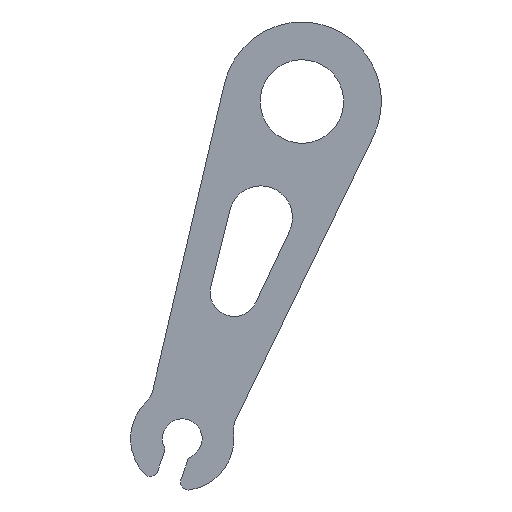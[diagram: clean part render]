
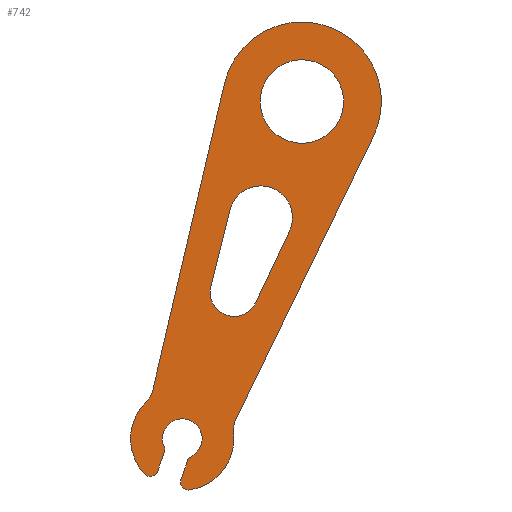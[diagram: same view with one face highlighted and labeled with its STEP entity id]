
A CAD part, front view. The second image highlights one B-rep face of the part: STEP entity #742.
In plain terms, the highlighted planar face has unit normal (0, -1, 0).
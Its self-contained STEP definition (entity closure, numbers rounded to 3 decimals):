
#241=CARTESIAN_POINT('Axis2P3D Location',(1400.697,-948.,459.959)) ;
#245=CARTESIAN_POINT('Vertex',(1397.998,-948.,461.27)) ;
#247=CARTESIAN_POINT('Vertex',(1397.717,-948.,459.608)) ;
#276=CARTESIAN_POINT('Vertex',(1392.177,-948.,452.411)) ;
#279=CARTESIAN_POINT('Axis2P3D Location',(1391.262,-948.,458.847)) ;
#300=CARTESIAN_POINT('Vertex',(1415.303,-948.,496.887)) ;
#303=CARTESIAN_POINT('Line Origine',(1406.651,-948.,479.078)) ;
#320=CARTESIAN_POINT('Axis2P3D Location',(1384.638,-948.,465.656)) ;
#324=CARTESIAN_POINT('Vertex',(1387.559,-948.,464.974)) ;
#326=CARTESIAN_POINT('Vertex',(1386.73,-948.,463.506)) ;
#355=CARTESIAN_POINT('Vertex',(1386.496,-948.,454.427)) ;
#358=CARTESIAN_POINT('Axis2P3D Location',(1391.262,-948.,458.847)) ;
#375=CARTESIAN_POINT('Line Origine',(1392.065,-948.,484.253)) ;
#379=CARTESIAN_POINT('Vertex',(1396.571,-948.,503.533)) ;
#403=CARTESIAN_POINT('Vertex',(1388.172,-948.,454.772)) ;
#406=CARTESIAN_POINT('Axis2P3D Location',(1387.229,-948.,455.107)) ;
#427=CARTESIAN_POINT('Vertex',(1389.,-948.,457.106)) ;
#430=CARTESIAN_POINT('Line Origine',(1388.586,-948.,455.939)) ;
#451=CARTESIAN_POINT('Vertex',(1391.093,-948.,453.736)) ;
#454=CARTESIAN_POINT('Axis2P3D Location',(1392.036,-948.,453.401)) ;
#471=CARTESIAN_POINT('Line Origine',(1391.507,-948.,454.902)) ;
#475=CARTESIAN_POINT('Vertex',(1391.921,-948.,456.069)) ;
#499=CARTESIAN_POINT('Vertex',(1388.973,-948.,457.842)) ;
#502=CARTESIAN_POINT('Axis2P3D Location',(1388.057,-948.,457.44)) ;
#519=CARTESIAN_POINT('Axis2P3D Location',(1391.262,-948.,458.847)) ;
#523=CARTESIAN_POINT('Vertex',(1392.406,-948.,456.624)) ;
#543=CARTESIAN_POINT('Axis2P3D Location',(1392.864,-948.,455.735)) ;
#560=CARTESIAN_POINT('Axis2P3D Location',(1397.782,-948.,477.224)) ;
#564=CARTESIAN_POINT('Vertex',(1394.869,-948.,477.94)) ;
#566=CARTESIAN_POINT('Vertex',(1400.495,-948.,475.944)) ;
#591=CARTESIAN_POINT('Line Origine',(1402.619,-948.,480.442)) ;
#595=CARTESIAN_POINT('Vertex',(1404.743,-948.,484.941)) ;
#615=CARTESIAN_POINT('Axis2P3D Location',(1401.126,-948.,486.649)) ;
#619=CARTESIAN_POINT('Vertex',(1397.241,-948.,487.603)) ;
#639=CARTESIAN_POINT('Line Origine',(1396.055,-948.,482.771)) ;
#656=CARTESIAN_POINT('Axis2P3D Location',(1406.309,-948.,501.257)) ;
#660=CARTESIAN_POINT('Vertex',(1401.093,-948.,501.854)) ;
#662=CARTESIAN_POINT('Vertex',(1411.524,-948.,500.659)) ;
#682=CARTESIAN_POINT('Axis2P3D Location',(1406.309,-948.,501.257)) ;
#699=CARTESIAN_POINT('Axis2P3D Location',(1406.309,-948.,501.257)) ;
#711=CARTESIAN_POINT('Axis2P3D Location',(1404.943,-948.,489.335)) ;
#242=DIRECTION('Axis2P3D Direction',(0.,1.,0.)) ;
#280=DIRECTION('Axis2P3D Direction',(0.,-1.,0.)) ;
#304=DIRECTION('Vector Direction',(-0.437,0.,-0.899)) ;
#321=DIRECTION('Axis2P3D Direction',(0.,-1.,0.)) ;
#359=DIRECTION('Axis2P3D Direction',(0.,-1.,0.)) ;
#376=DIRECTION('Vector Direction',(-0.228,0.,-0.974)) ;
#407=DIRECTION('Axis2P3D Direction',(0.,-1.,0.)) ;
#431=DIRECTION('Vector Direction',(-0.334,0.,-0.942)) ;
#455=DIRECTION('Axis2P3D Direction',(0.,1.,0.)) ;
#472=DIRECTION('Vector Direction',(-0.334,0.,-0.942)) ;
#503=DIRECTION('Axis2P3D Direction',(0.,1.,0.)) ;
#520=DIRECTION('Axis2P3D Direction',(0.,-1.,0.)) ;
#544=DIRECTION('Axis2P3D Direction',(0.,-1.,0.)) ;
#561=DIRECTION('Axis2P3D Direction',(0.,-1.,0.)) ;
#592=DIRECTION('Vector Direction',(-0.427,0.,-0.904)) ;
#616=DIRECTION('Axis2P3D Direction',(0.,-1.,0.)) ;
#640=DIRECTION('Vector Direction',(-0.238,0.,-0.971)) ;
#657=DIRECTION('Axis2P3D Direction',(0.,-1.,0.)) ;
#683=DIRECTION('Axis2P3D Direction',(0.,-1.,0.)) ;
#700=DIRECTION('Axis2P3D Direction',(0.,-1.,0.)) ;
#712=DIRECTION('Axis2P3D Direction',(0.,-1.,0.)) ;
#713=DIRECTION('Axis2P3D XDirection',(0.994,0.,-0.114)) ;
#243=AXIS2_PLACEMENT_3D('Circle Axis2P3D',#241,#242,$) ;
#281=AXIS2_PLACEMENT_3D('Circle Axis2P3D',#279,#280,$) ;
#322=AXIS2_PLACEMENT_3D('Circle Axis2P3D',#320,#321,$) ;
#360=AXIS2_PLACEMENT_3D('Circle Axis2P3D',#358,#359,$) ;
#408=AXIS2_PLACEMENT_3D('Circle Axis2P3D',#406,#407,$) ;
#456=AXIS2_PLACEMENT_3D('Circle Axis2P3D',#454,#455,$) ;
#504=AXIS2_PLACEMENT_3D('Circle Axis2P3D',#502,#503,$) ;
#521=AXIS2_PLACEMENT_3D('Circle Axis2P3D',#519,#520,$) ;
#545=AXIS2_PLACEMENT_3D('Circle Axis2P3D',#543,#544,$) ;
#562=AXIS2_PLACEMENT_3D('Circle Axis2P3D',#560,#561,$) ;
#617=AXIS2_PLACEMENT_3D('Circle Axis2P3D',#615,#616,$) ;
#658=AXIS2_PLACEMENT_3D('Circle Axis2P3D',#656,#657,$) ;
#684=AXIS2_PLACEMENT_3D('Circle Axis2P3D',#682,#683,$) ;
#701=AXIS2_PLACEMENT_3D('Circle Axis2P3D',#699,#700,$) ;
#714=AXIS2_PLACEMENT_3D('Plane Axis2P3D',#711,#712,#713) ;
#717=ORIENTED_EDGE('',*,*,#547,.T.) ;
#718=ORIENTED_EDGE('',*,*,#477,.T.) ;
#719=ORIENTED_EDGE('',*,*,#458,.T.) ;
#720=ORIENTED_EDGE('',*,*,#283,.T.) ;
#721=ORIENTED_EDGE('',*,*,#249,.F.) ;
#722=ORIENTED_EDGE('',*,*,#307,.F.) ;
#723=ORIENTED_EDGE('',*,*,#703,.T.) ;
#724=ORIENTED_EDGE('',*,*,#381,.T.) ;
#725=ORIENTED_EDGE('',*,*,#328,.T.) ;
#726=ORIENTED_EDGE('',*,*,#362,.F.) ;
#727=ORIENTED_EDGE('',*,*,#410,.F.) ;
#728=ORIENTED_EDGE('',*,*,#434,.F.) ;
#729=ORIENTED_EDGE('',*,*,#506,.F.) ;
#730=ORIENTED_EDGE('',*,*,#525,.F.) ;
#733=ORIENTED_EDGE('',*,*,#664,.T.) ;
#734=ORIENTED_EDGE('',*,*,#686,.T.) ;
#737=ORIENTED_EDGE('',*,*,#597,.T.) ;
#738=ORIENTED_EDGE('',*,*,#568,.F.) ;
#739=ORIENTED_EDGE('',*,*,#643,.F.) ;
#740=ORIENTED_EDGE('',*,*,#621,.T.) ;
#735=FACE_BOUND('',#732,.T.) ;
#741=FACE_BOUND('',#736,.T.) ;
#305=VECTOR('Line Direction',#304,1.) ;
#377=VECTOR('Line Direction',#376,1.) ;
#432=VECTOR('Line Direction',#431,1.) ;
#473=VECTOR('Line Direction',#472,1.) ;
#593=VECTOR('Line Direction',#592,1.) ;
#641=VECTOR('Line Direction',#640,1.) ;
#742=ADVANCED_FACE('\X2\51E04F554F53\X0\.4',(#731,#735,#741),#715,.T.) ;
#244=CIRCLE('generated circle',#243,3.) ;
#282=CIRCLE('generated circle',#281,6.5) ;
#323=CIRCLE('generated circle',#322,3.) ;
#361=CIRCLE('generated circle',#360,6.5) ;
#409=CIRCLE('generated circle',#408,1.) ;
#457=CIRCLE('generated circle',#456,1.) ;
#505=CIRCLE('generated circle',#504,1.) ;
#522=CIRCLE('generated circle',#521,2.5) ;
#546=CIRCLE('generated circle',#545,1.) ;
#563=CIRCLE('generated circle',#562,3.) ;
#618=CIRCLE('generated circle',#617,4.) ;
#659=CIRCLE('generated circle',#658,5.25) ;
#685=CIRCLE('generated circle',#684,5.25) ;
#702=CIRCLE('generated circle',#701,10.) ;
#249=EDGE_CURVE('',#246,#248,#244,.F.) ;
#283=EDGE_CURVE('',#277,#248,#282,.T.) ;
#307=EDGE_CURVE('',#301,#246,#306,.T.) ;
#328=EDGE_CURVE('',#325,#327,#323,.F.) ;
#362=EDGE_CURVE('',#356,#327,#361,.F.) ;
#381=EDGE_CURVE('',#380,#325,#378,.T.) ;
#410=EDGE_CURVE('',#404,#356,#409,.F.) ;
#434=EDGE_CURVE('',#428,#404,#433,.T.) ;
#458=EDGE_CURVE('',#452,#277,#457,.F.) ;
#477=EDGE_CURVE('',#476,#452,#474,.T.) ;
#506=EDGE_CURVE('',#500,#428,#505,.T.) ;
#525=EDGE_CURVE('',#524,#500,#522,.T.) ;
#547=EDGE_CURVE('',#524,#476,#546,.T.) ;
#568=EDGE_CURVE('',#565,#567,#563,.T.) ;
#597=EDGE_CURVE('',#596,#567,#594,.T.) ;
#621=EDGE_CURVE('',#620,#596,#618,.F.) ;
#643=EDGE_CURVE('',#620,#565,#642,.T.) ;
#664=EDGE_CURVE('',#661,#663,#659,.F.) ;
#686=EDGE_CURVE('',#663,#661,#685,.F.) ;
#703=EDGE_CURVE('',#301,#380,#702,.T.) ;
#716=EDGE_LOOP('',(#717,#718,#719,#720,#721,#722,#723,#724,#725,#726,#727,#728,#729,#730)) ;
#732=EDGE_LOOP('',(#733,#734)) ;
#736=EDGE_LOOP('',(#737,#738,#739,#740)) ;
#731=FACE_OUTER_BOUND('',#716,.T.) ;
#306=LINE('Line',#303,#305) ;
#378=LINE('Line',#375,#377) ;
#433=LINE('Line',#430,#432) ;
#474=LINE('Line',#471,#473) ;
#594=LINE('Line',#591,#593) ;
#642=LINE('Line',#639,#641) ;
#715=PLANE('Plane',#714) ;
#246=VERTEX_POINT('',#245) ;
#248=VERTEX_POINT('',#247) ;
#277=VERTEX_POINT('',#276) ;
#301=VERTEX_POINT('',#300) ;
#325=VERTEX_POINT('',#324) ;
#327=VERTEX_POINT('',#326) ;
#356=VERTEX_POINT('',#355) ;
#380=VERTEX_POINT('',#379) ;
#404=VERTEX_POINT('',#403) ;
#428=VERTEX_POINT('',#427) ;
#452=VERTEX_POINT('',#451) ;
#476=VERTEX_POINT('',#475) ;
#500=VERTEX_POINT('',#499) ;
#524=VERTEX_POINT('',#523) ;
#565=VERTEX_POINT('',#564) ;
#567=VERTEX_POINT('',#566) ;
#596=VERTEX_POINT('',#595) ;
#620=VERTEX_POINT('',#619) ;
#661=VERTEX_POINT('',#660) ;
#663=VERTEX_POINT('',#662) ;
